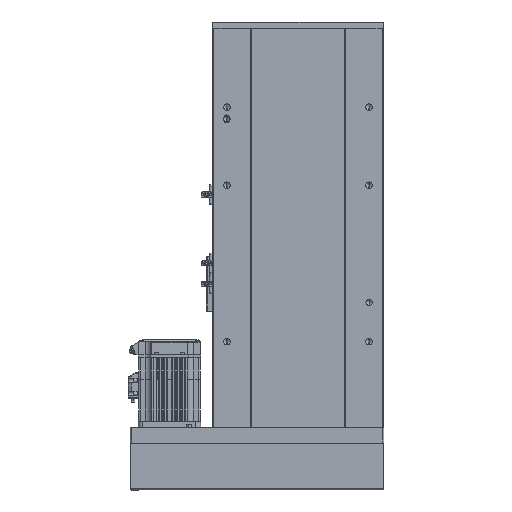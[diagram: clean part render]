
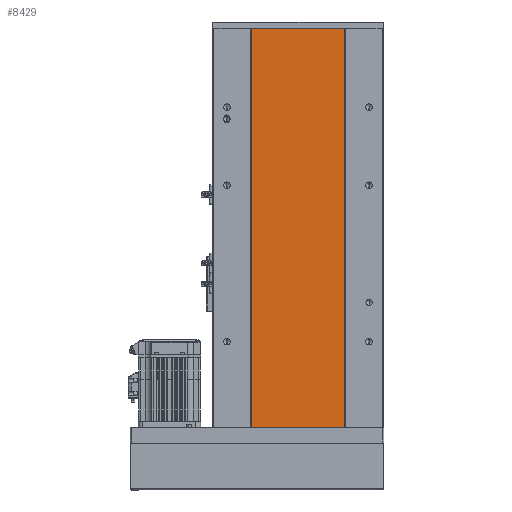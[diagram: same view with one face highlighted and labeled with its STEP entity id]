
A CAD part, front view. The second image highlights one B-rep face of the part: STEP entity #8429.
In plain terms, the highlighted planar face has unit normal (0, -1, 0).
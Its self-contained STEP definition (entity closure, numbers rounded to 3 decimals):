
#2502 = DIRECTION ( 'NONE',  ( 0., 0., -1. ) ) ;
#5116 = ORIENTED_EDGE ( 'NONE', *, *, #40322, .T. ) ;
#5641 = LINE ( 'NONE', #15634, #32001 ) ;
#7867 = AXIS2_PLACEMENT_3D ( 'NONE', #18492, #27854, #8514 ) ;
#8328 = ORIENTED_EDGE ( 'NONE', *, *, #28420, .T. ) ;
#8429 = ADVANCED_FACE ( 'NONE', ( #37872 ), #40861, .F. ) ;
#8514 = DIRECTION ( 'NONE',  ( 0., 0., 1. ) ) ;
#9197 = VERTEX_POINT ( 'NONE', #30695 ) ;
#14815 = LINE ( 'NONE', #41200, #20433 ) ;
#15634 = CARTESIAN_POINT ( 'NONE',  ( 0., 155.016, 511. ) ) ;
#16284 = EDGE_CURVE ( 'NONE', #17014, #32812, #5641, .T. ) ;
#17014 = VERTEX_POINT ( 'NONE', #41431 ) ;
#18492 = CARTESIAN_POINT ( 'NONE',  ( 0., 155.016, 511. ) ) ;
#18967 = ORIENTED_EDGE ( 'NONE', *, *, #16284, .F. ) ;
#19264 = LINE ( 'NONE', #28848, #34652 ) ;
#19814 = DIRECTION ( 'NONE',  ( 0., 0., -1. ) ) ;
#20229 = LINE ( 'NONE', #33205, #35605 ) ;
#20433 = VECTOR ( 'NONE', #2502, 1000. ) ;
#22006 = ORIENTED_EDGE ( 'NONE', *, *, #33775, .F. ) ;
#22240 = DIRECTION ( 'NONE',  ( 1., 0., 0. ) ) ;
#22480 = VERTEX_POINT ( 'NONE', #33185 ) ;
#27854 = DIRECTION ( 'NONE',  ( 0., 1., 0. ) ) ;
#28420 = EDGE_CURVE ( 'NONE', #9197, #22480, #19264, .T. ) ;
#28596 = DIRECTION ( 'NONE',  ( 1., 0., 0. ) ) ;
#28848 = CARTESIAN_POINT ( 'NONE',  ( 0., 155.016, 0. ) ) ;
#30217 = CARTESIAN_POINT ( 'NONE',  ( 551.58, 155.016, 511. ) ) ;
#30695 = CARTESIAN_POINT ( 'NONE',  ( 432.408, 155.016, 0. ) ) ;
#32001 = VECTOR ( 'NONE', #28596, 1000. ) ;
#32812 = VERTEX_POINT ( 'NONE', #30217 ) ;
#33185 = CARTESIAN_POINT ( 'NONE',  ( 551.58, 155.016, 0. ) ) ;
#33205 = CARTESIAN_POINT ( 'NONE',  ( 551.58, 155.016, 511. ) ) ;
#33775 = EDGE_CURVE ( 'NONE', #32812, #22480, #20229, .T. ) ;
#34652 = VECTOR ( 'NONE', #22240, 1000. ) ;
#35605 = VECTOR ( 'NONE', #19814, 1000. ) ;
#37872 = FACE_OUTER_BOUND ( 'NONE', #40189, .T. ) ;
#40189 = EDGE_LOOP ( 'NONE', ( #8328, #22006, #18967, #5116 ) ) ;
#40322 = EDGE_CURVE ( 'NONE', #17014, #9197, #14815, .T. ) ;
#40861 = PLANE ( 'NONE',  #7867 ) ;
#41200 = CARTESIAN_POINT ( 'NONE',  ( 432.408, 155.016, 511. ) ) ;
#41431 = CARTESIAN_POINT ( 'NONE',  ( 432.408, 155.016, 511. ) ) ;
